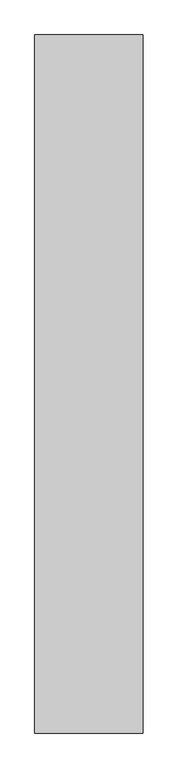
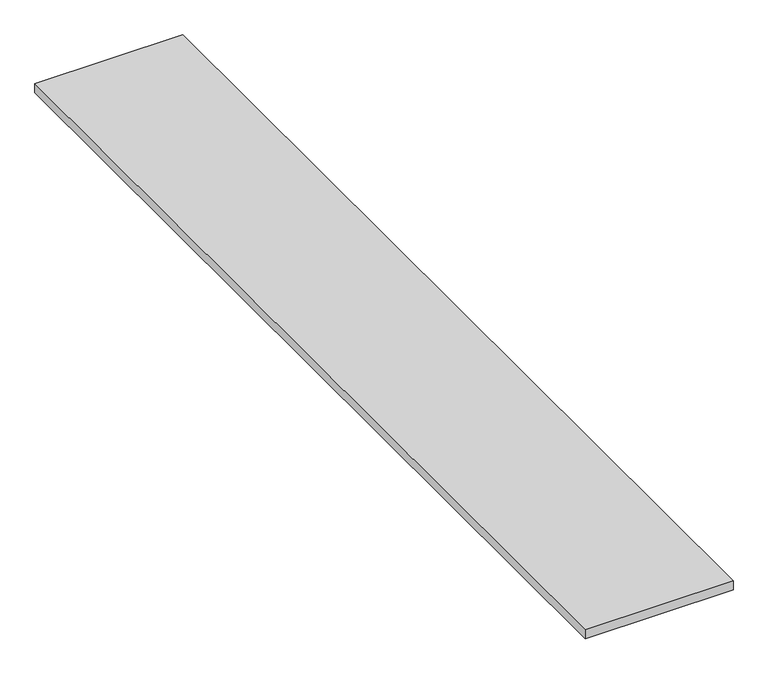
"""IFC4 building model written with IfcOpenShell, lengths in millimetres: proxy geometry, Modelos genéricos 118 : Modelos genéricos 26."""

from ifc_helpers import new_model, si_unit, frame, origin, place, context, project, spatial, polyline, outline, extrude, source, transform, mapped, element, save


def generic_models_d2642685(model_context):
    return source(origin(), model_context, "Body", "SweptSolid", [
        extrude(outline(polyline([(-18503.0354949, -6159.947466), (-18978.0354949, -6159.947466), (-18978.0354949, -3102.0417559), (-18503.0354949, -3102.0417559), (-18503.0354949, -6159.947466)])), frame((0.0, 0.0, 1250.0), z_axis=(0.0, 0.0, 1.0), x_axis=(1.0, 0.0, 0.0)), (0.0, 0.0, 1.0), 30.0),
    ])


if __name__ == "__main__":
    model = new_model("IFC4")
    model_context = context("Model", 3, world=origin())
    ifc_project = project(units=[si_unit("LENGTHUNIT", "METRE", prefix="MILLI")], contexts=[model_context])
    site = spatial("IfcSite", under=ifc_project)
    building = spatial("IfcBuilding", under=site)
    placement = place(None, origin())
    generic_models_shape = generic_models_d2642685(model_context)
    element("IfcBuildingElementProxy", 1, Name="Modelos genéricos 118 : Modelos genéricos 26", ObjectType="Modelos genéricos 118 : Modelos genéricos 26", at=placement, inside=building, context=model_context, shape_type="MappedRepresentation", body=[
        mapped(generic_models_shape, transform((0.0, 0.0, 0.0), x_axis=(1.0, 0.0, 0.0), y_axis=(0.0, 1.0, 0.0), z_axis=(0.0, 0.0, 1.0))),
    ])
    save(model, "model.ifc")
